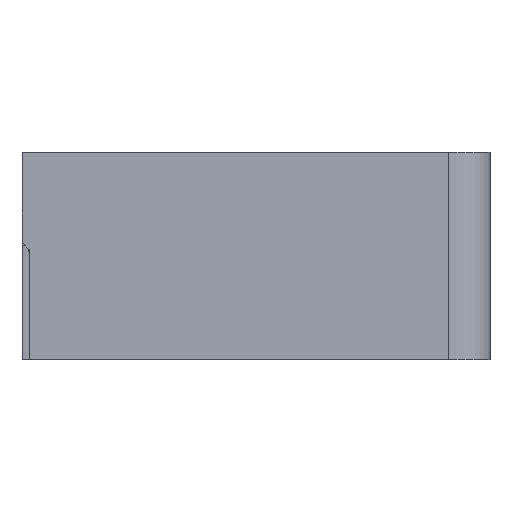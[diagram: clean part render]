
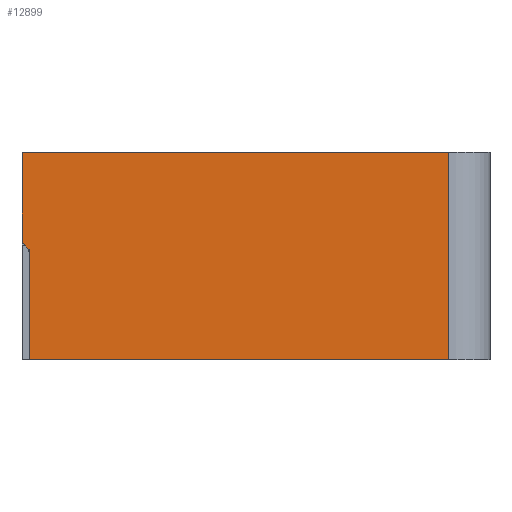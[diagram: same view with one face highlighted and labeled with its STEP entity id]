
A CAD part, front view. The second image highlights one B-rep face of the part: STEP entity #12899.
In plain terms, the highlighted planar face has unit normal (0, -1, 0).
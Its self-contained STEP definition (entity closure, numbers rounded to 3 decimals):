
#22 = VERTEX_POINT('',#23);
#23 = CARTESIAN_POINT('',(0.15,-160.131,100.));
#32 = PLANE('',#33);
#33 = AXIS2_PLACEMENT_3D('',#34,#35,#36);
#34 = CARTESIAN_POINT('',(-226.013,-160.131,100.));
#35 = DIRECTION('',(0.,0.,1.));
#36 = DIRECTION('',(1.,0.,-0.));
#44 = PLANE('',#45);
#45 = AXIS2_PLACEMENT_3D('',#46,#47,#48);
#46 = CARTESIAN_POINT('',(0.15,-160.131,0.));
#47 = DIRECTION('',(1.,0.,-0.));
#48 = DIRECTION('',(0.,0.,1.));
#56 = EDGE_CURVE('',#22,#57,#59,.T.);
#57 = VERTEX_POINT('',#58);
#58 = CARTESIAN_POINT('',(206.013,-160.131,100.));
#59 = SURFACE_CURVE('',#60,(#64,#71),.PCURVE_S1.);
#60 = LINE('',#61,#62);
#61 = CARTESIAN_POINT('',(-226.013,-160.131,100.));
#62 = VECTOR('',#63,1.);
#63 = DIRECTION('',(1.,0.,0.));
#64 = PCURVE('',#32,#65);
#65 = DEFINITIONAL_REPRESENTATION('',(#66),#70);
#66 = LINE('',#67,#68);
#67 = CARTESIAN_POINT('',(0.,0.));
#68 = VECTOR('',#69,1.);
#69 = DIRECTION('',(1.,0.));
#70 = ( GEOMETRIC_REPRESENTATION_CONTEXT(2) 
PARAMETRIC_REPRESENTATION_CONTEXT() REPRESENTATION_CONTEXT('2D SPACE',''
  ) );
#71 = PCURVE('',#72,#77);
#72 = PLANE('',#73);
#73 = AXIS2_PLACEMENT_3D('',#74,#75,#76);
#74 = CARTESIAN_POINT('',(-226.013,-160.131,0.));
#75 = DIRECTION('',(0.,1.,0.));
#76 = DIRECTION('',(0.,-0.,1.));
#77 = DEFINITIONAL_REPRESENTATION('',(#78),#82);
#78 = LINE('',#79,#80);
#79 = CARTESIAN_POINT('',(100.,0.));
#80 = VECTOR('',#81,1.);
#81 = DIRECTION('',(0.,1.));
#82 = ( GEOMETRIC_REPRESENTATION_CONTEXT(2) 
PARAMETRIC_REPRESENTATION_CONTEXT() REPRESENTATION_CONTEXT('2D SPACE',''
  ) );
#105 = CYLINDRICAL_SURFACE('',#106,20.);
#106 = AXIS2_PLACEMENT_3D('',#107,#108,#109);
#107 = CARTESIAN_POINT('',(206.013,-140.131,0.));
#108 = DIRECTION('',(0.,0.,1.));
#109 = DIRECTION('',(1.,0.,-0.));
#4296 = EDGE_CURVE('',#4297,#22,#4299,.T.);
#4297 = VERTEX_POINT('',#4298);
#4298 = CARTESIAN_POINT('',(0.15,-160.131,56.616));
#4299 = SURFACE_CURVE('',#4300,(#4304,#4311),.PCURVE_S1.);
#4300 = LINE('',#4301,#4302);
#4301 = CARTESIAN_POINT('',(0.15,-160.131,0.));
#4302 = VECTOR('',#4303,1.);
#4303 = DIRECTION('',(0.,0.,1.));
#4304 = PCURVE('',#44,#4305);
#4305 = DEFINITIONAL_REPRESENTATION('',(#4306),#4310);
#4306 = LINE('',#4307,#4308);
#4307 = CARTESIAN_POINT('',(0.,0.));
#4308 = VECTOR('',#4309,1.);
#4309 = DIRECTION('',(1.,0.));
#4310 = ( GEOMETRIC_REPRESENTATION_CONTEXT(2) 
PARAMETRIC_REPRESENTATION_CONTEXT() REPRESENTATION_CONTEXT('2D SPACE',''
  ) );
#4311 = PCURVE('',#72,#4312);
#4312 = DEFINITIONAL_REPRESENTATION('',(#4313),#4317);
#4313 = LINE('',#4314,#4315);
#4314 = CARTESIAN_POINT('',(0.,226.163));
#4315 = VECTOR('',#4316,1.);
#4316 = DIRECTION('',(1.,0.));
#4317 = ( GEOMETRIC_REPRESENTATION_CONTEXT(2) 
PARAMETRIC_REPRESENTATION_CONTEXT() REPRESENTATION_CONTEXT('2D SPACE',''
  ) );
#4334 = PLANE('',#4335);
#4335 = AXIS2_PLACEMENT_3D('',#4336,#4337,#4338);
#4336 = CARTESIAN_POINT('',(3.54,-161.131,53.226));
#4337 = DIRECTION('',(0.707,-0.,0.707));
#4338 = DIRECTION('',(-0.707,0.,0.707));
#4415 = PLANE('',#4416);
#4416 = AXIS2_PLACEMENT_3D('',#4417,#4418,#4419);
#4417 = CARTESIAN_POINT('',(-226.013,-160.131,0.));
#4418 = DIRECTION('',(0.,0.,1.));
#4419 = DIRECTION('',(1.,0.,-0.));
#12851 = EDGE_CURVE('',#12852,#57,#12854,.T.);
#12852 = VERTEX_POINT('',#12853);
#12853 = CARTESIAN_POINT('',(206.013,-160.131,0.));
#12854 = SURFACE_CURVE('',#12855,(#12859,#12866),.PCURVE_S1.);
#12855 = LINE('',#12856,#12857);
#12856 = CARTESIAN_POINT('',(206.013,-160.131,0.));
#12857 = VECTOR('',#12858,1.);
#12858 = DIRECTION('',(0.,0.,1.));
#12859 = PCURVE('',#105,#12860);
#12860 = DEFINITIONAL_REPRESENTATION('',(#12861),#12865);
#12861 = LINE('',#12862,#12863);
#12862 = CARTESIAN_POINT('',(4.712,0.));
#12863 = VECTOR('',#12864,1.);
#12864 = DIRECTION('',(-0.,1.));
#12865 = ( GEOMETRIC_REPRESENTATION_CONTEXT(2) 
PARAMETRIC_REPRESENTATION_CONTEXT() REPRESENTATION_CONTEXT('2D SPACE',''
  ) );
#12866 = PCURVE('',#72,#12867);
#12867 = DEFINITIONAL_REPRESENTATION('',(#12868),#12872);
#12868 = LINE('',#12869,#12870);
#12869 = CARTESIAN_POINT('',(0.,432.025));
#12870 = VECTOR('',#12871,1.);
#12871 = DIRECTION('',(1.,0.));
#12872 = ( GEOMETRIC_REPRESENTATION_CONTEXT(2) 
PARAMETRIC_REPRESENTATION_CONTEXT() REPRESENTATION_CONTEXT('2D SPACE',''
  ) );
#12899 = ADVANCED_FACE('',(#12900),#72,.F.);
#12900 = FACE_BOUND('',#12901,.F.);
#12901 = EDGE_LOOP('',(#12902,#12925,#12953,#12979,#13005,#13024,#13025,
    #13026));
#12902 = ORIENTED_EDGE('',*,*,#12903,.F.);
#12903 = EDGE_CURVE('',#12904,#12852,#12906,.T.);
#12904 = VERTEX_POINT('',#12905);
#12905 = CARTESIAN_POINT('',(3.54,-160.131,0.));
#12906 = SURFACE_CURVE('',#12907,(#12911,#12918),.PCURVE_S1.);
#12907 = LINE('',#12908,#12909);
#12908 = CARTESIAN_POINT('',(-226.013,-160.131,0.));
#12909 = VECTOR('',#12910,1.);
#12910 = DIRECTION('',(1.,0.,0.));
#12911 = PCURVE('',#72,#12912);
#12912 = DEFINITIONAL_REPRESENTATION('',(#12913),#12917);
#12913 = LINE('',#12914,#12915);
#12914 = CARTESIAN_POINT('',(0.,0.));
#12915 = VECTOR('',#12916,1.);
#12916 = DIRECTION('',(0.,1.));
#12917 = ( GEOMETRIC_REPRESENTATION_CONTEXT(2) 
PARAMETRIC_REPRESENTATION_CONTEXT() REPRESENTATION_CONTEXT('2D SPACE',''
  ) );
#12918 = PCURVE('',#4415,#12919);
#12919 = DEFINITIONAL_REPRESENTATION('',(#12920),#12924);
#12920 = LINE('',#12921,#12922);
#12921 = CARTESIAN_POINT('',(0.,0.));
#12922 = VECTOR('',#12923,1.);
#12923 = DIRECTION('',(1.,0.));
#12924 = ( GEOMETRIC_REPRESENTATION_CONTEXT(2) 
PARAMETRIC_REPRESENTATION_CONTEXT() REPRESENTATION_CONTEXT('2D SPACE',''
  ) );
#12925 = ORIENTED_EDGE('',*,*,#12926,.F.);
#12926 = EDGE_CURVE('',#12927,#12904,#12929,.T.);
#12927 = VERTEX_POINT('',#12928);
#12928 = CARTESIAN_POINT('',(3.54,-160.131,51.76));
#12929 = SURFACE_CURVE('',#12930,(#12934,#12941),.PCURVE_S1.);
#12930 = LINE('',#12931,#12932);
#12931 = CARTESIAN_POINT('',(3.54,-160.131,-0.5));
#12932 = VECTOR('',#12933,1.);
#12933 = DIRECTION('',(-0.,0.,-1.));
#12934 = PCURVE('',#72,#12935);
#12935 = DEFINITIONAL_REPRESENTATION('',(#12936),#12940);
#12936 = LINE('',#12937,#12938);
#12937 = CARTESIAN_POINT('',(-0.5,229.553));
#12938 = VECTOR('',#12939,1.);
#12939 = DIRECTION('',(-1.,0.));
#12940 = ( GEOMETRIC_REPRESENTATION_CONTEXT(2) 
PARAMETRIC_REPRESENTATION_CONTEXT() REPRESENTATION_CONTEXT('2D SPACE',''
  ) );
#12941 = PCURVE('',#12942,#12947);
#12942 = PLANE('',#12943);
#12943 = AXIS2_PLACEMENT_3D('',#12944,#12945,#12946);
#12944 = CARTESIAN_POINT('',(3.54,-161.131,-1.));
#12945 = DIRECTION('',(1.,0.,-0.));
#12946 = DIRECTION('',(0.,0.,1.));
#12947 = DEFINITIONAL_REPRESENTATION('',(#12948),#12952);
#12948 = LINE('',#12949,#12950);
#12949 = CARTESIAN_POINT('',(0.5,-1.));
#12950 = VECTOR('',#12951,1.);
#12951 = DIRECTION('',(-1.,-0.));
#12952 = ( GEOMETRIC_REPRESENTATION_CONTEXT(2) 
PARAMETRIC_REPRESENTATION_CONTEXT() REPRESENTATION_CONTEXT('2D SPACE',''
  ) );
#12953 = ORIENTED_EDGE('',*,*,#12954,.F.);
#12954 = EDGE_CURVE('',#12955,#12927,#12957,.T.);
#12955 = VERTEX_POINT('',#12956);
#12956 = CARTESIAN_POINT('',(3.54,-160.131,53.226));
#12957 = SURFACE_CURVE('',#12958,(#12962,#12968),.PCURVE_S1.);
#12958 = LINE('',#12959,#12960);
#12959 = CARTESIAN_POINT('',(3.54,-160.131,-0.5));
#12960 = VECTOR('',#12961,1.);
#12961 = DIRECTION('',(0.,0.,-1.));
#12962 = PCURVE('',#72,#12963);
#12963 = DEFINITIONAL_REPRESENTATION('',(#12964),#12967);
#12964 = B_SPLINE_CURVE_WITH_KNOTS('',1,(#12965,#12966),.UNSPECIFIED.,
  .F.,.F.,(2,2),(-53.726,-0.5),.PIECEWISE_BEZIER_KNOTS.);
#12965 = CARTESIAN_POINT('',(53.226,229.553));
#12966 = CARTESIAN_POINT('',(0.,229.553));
#12967 = ( GEOMETRIC_REPRESENTATION_CONTEXT(2) 
PARAMETRIC_REPRESENTATION_CONTEXT() REPRESENTATION_CONTEXT('2D SPACE',''
  ) );
#12968 = PCURVE('',#12969,#12974);
#12969 = PLANE('',#12970);
#12970 = AXIS2_PLACEMENT_3D('',#12971,#12972,#12973);
#12971 = CARTESIAN_POINT('',(3.54,-161.131,-1.));
#12972 = DIRECTION('',(1.,0.,0.));
#12973 = DIRECTION('',(0.,0.,1.));
#12974 = DEFINITIONAL_REPRESENTATION('',(#12975),#12978);
#12975 = B_SPLINE_CURVE_WITH_KNOTS('',1,(#12976,#12977),.UNSPECIFIED.,
  .F.,.F.,(2,2),(-53.726,-0.5),.PIECEWISE_BEZIER_KNOTS.);
#12976 = CARTESIAN_POINT('',(54.226,-1.));
#12977 = CARTESIAN_POINT('',(1.,-1.));
#12978 = ( GEOMETRIC_REPRESENTATION_CONTEXT(2) 
PARAMETRIC_REPRESENTATION_CONTEXT() REPRESENTATION_CONTEXT('2D SPACE',''
  ) );
#12979 = ORIENTED_EDGE('',*,*,#12980,.F.);
#12980 = EDGE_CURVE('',#12981,#12955,#12983,.T.);
#12981 = VERTEX_POINT('',#12982);
#12982 = CARTESIAN_POINT('',(2.503,-160.131,54.263));
#12983 = SURFACE_CURVE('',#12984,(#12988,#12994),.PCURVE_S1.);
#12984 = LINE('',#12985,#12986);
#12985 = CARTESIAN_POINT('',(-40.542,-160.131,97.308)
  );
#12986 = VECTOR('',#12987,1.);
#12987 = DIRECTION('',(0.707,0.,-0.707));
#12988 = PCURVE('',#72,#12989);
#12989 = DEFINITIONAL_REPRESENTATION('',(#12990),#12993);
#12990 = B_SPLINE_CURVE_WITH_KNOTS('',1,(#12991,#12992),.UNSPECIFIED.,
  .F.,.F.,(2,2),(57.547,62.341),
  .PIECEWISE_BEZIER_KNOTS.);
#12991 = CARTESIAN_POINT('',(56.616,226.163));
#12992 = CARTESIAN_POINT('',(53.226,229.553));
#12993 = ( GEOMETRIC_REPRESENTATION_CONTEXT(2) 
PARAMETRIC_REPRESENTATION_CONTEXT() REPRESENTATION_CONTEXT('2D SPACE',''
  ) );
#12994 = PCURVE('',#12995,#13000);
#12995 = PLANE('',#12996);
#12996 = AXIS2_PLACEMENT_3D('',#12997,#12998,#12999);
#12997 = CARTESIAN_POINT('',(3.54,-161.131,53.226));
#12998 = DIRECTION('',(0.707,-0.,0.707));
#12999 = DIRECTION('',(-0.707,0.,0.707));
#13000 = DEFINITIONAL_REPRESENTATION('',(#13001),#13004);
#13001 = B_SPLINE_CURVE_WITH_KNOTS('',1,(#13002,#13003),.UNSPECIFIED.,
  .F.,.F.,(2,2),(57.547,62.341),
  .PIECEWISE_BEZIER_KNOTS.);
#13002 = CARTESIAN_POINT('',(4.794,-1.));
#13003 = CARTESIAN_POINT('',(0.,-1.));
#13004 = ( GEOMETRIC_REPRESENTATION_CONTEXT(2) 
PARAMETRIC_REPRESENTATION_CONTEXT() REPRESENTATION_CONTEXT('2D SPACE',''
  ) );
#13005 = ORIENTED_EDGE('',*,*,#13006,.F.);
#13006 = EDGE_CURVE('',#4297,#12981,#13007,.T.);
#13007 = SURFACE_CURVE('',#13008,(#13012,#13018),.PCURVE_S1.);
#13008 = LINE('',#13009,#13010);
#13009 = CARTESIAN_POINT('',(-40.542,-160.131,97.308)
  );
#13010 = VECTOR('',#13011,1.);
#13011 = DIRECTION('',(0.707,0.,-0.707));
#13012 = PCURVE('',#72,#13013);
#13013 = DEFINITIONAL_REPRESENTATION('',(#13014),#13017);
#13014 = B_SPLINE_CURVE_WITH_KNOTS('',1,(#13015,#13016),.UNSPECIFIED.,
  .F.,.F.,(2,2),(57.547,62.341),
  .PIECEWISE_BEZIER_KNOTS.);
#13015 = CARTESIAN_POINT('',(56.616,226.163));
#13016 = CARTESIAN_POINT('',(53.226,229.553));
#13017 = ( GEOMETRIC_REPRESENTATION_CONTEXT(2) 
PARAMETRIC_REPRESENTATION_CONTEXT() REPRESENTATION_CONTEXT('2D SPACE',''
  ) );
#13018 = PCURVE('',#4334,#13019);
#13019 = DEFINITIONAL_REPRESENTATION('',(#13020),#13023);
#13020 = B_SPLINE_CURVE_WITH_KNOTS('',1,(#13021,#13022),.UNSPECIFIED.,
  .F.,.F.,(2,2),(57.547,62.341),
  .PIECEWISE_BEZIER_KNOTS.);
#13021 = CARTESIAN_POINT('',(4.794,-1.));
#13022 = CARTESIAN_POINT('',(0.,-1.));
#13023 = ( GEOMETRIC_REPRESENTATION_CONTEXT(2) 
PARAMETRIC_REPRESENTATION_CONTEXT() REPRESENTATION_CONTEXT('2D SPACE',''
  ) );
#13024 = ORIENTED_EDGE('',*,*,#4296,.T.);
#13025 = ORIENTED_EDGE('',*,*,#56,.T.);
#13026 = ORIENTED_EDGE('',*,*,#12851,.F.);
